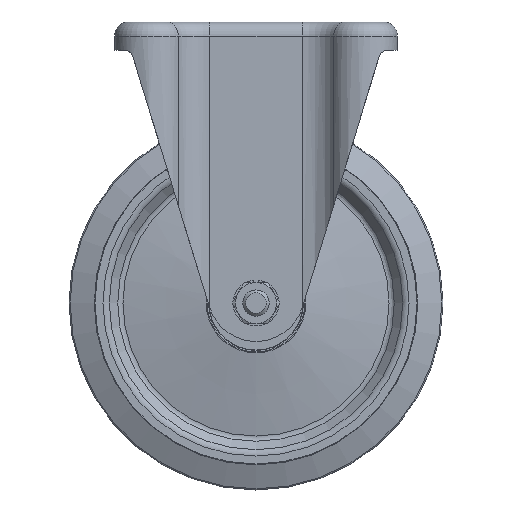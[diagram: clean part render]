
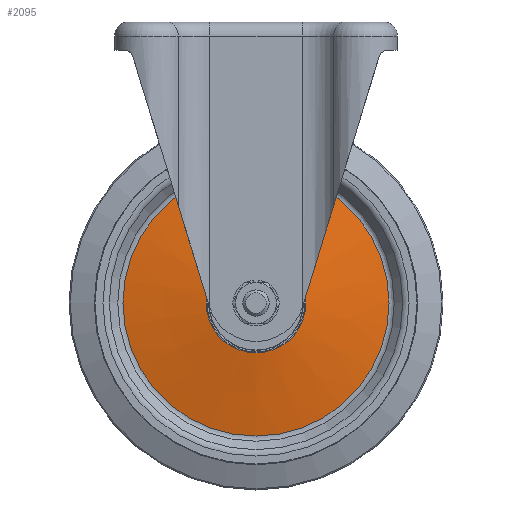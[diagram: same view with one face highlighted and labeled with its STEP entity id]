
A CAD part, left-side view. The second image highlights one B-rep face of the part: STEP entity #2095.
In plain terms, the highlighted conical face has half-angle 79.656 degrees and reference radius 48.81 mm.
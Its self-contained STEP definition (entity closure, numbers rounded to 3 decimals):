
#2061=CARTESIAN_POINT('',(978.887,0.,250.959));
#2062=VERTEX_POINT('',#2061);
#2063=CARTESIAN_POINT('',(978.887,0.,277.576));
#2064=DIRECTION('',(1.0,0.0,0.0));
#2065=DIRECTION('',(0.0,0.0,-1.0));
#2066=AXIS2_PLACEMENT_3D('',#2063,#2064,#2065);
#2067=CIRCLE('',#2066,26.617);
#2068=EDGE_CURVE('',#2062,#2062,#2067,.T.);
#2076=CARTESIAN_POINT('',(982.938,0.,277.576));
#2077=DIRECTION('',(1.0,0.0,0.0));
#2078=DIRECTION('',(0.0,0.0,-1.0));
#2079=AXIS2_PLACEMENT_3D('',#2076,#2077,#2078);
#2080=CONICAL_SURFACE('',#2079,48.81,79.656);
#2081=CARTESIAN_POINT('',(986.989,0.,206.573));
#2082=VERTEX_POINT('',#2081);
#2083=CARTESIAN_POINT('',(986.989,0.,277.576));
#2084=DIRECTION('',(1.0,0.0,0.0));
#2085=DIRECTION('',(0.0,0.0,-1.0));
#2086=AXIS2_PLACEMENT_3D('',#2083,#2084,#2085);
#2087=CIRCLE('',#2086,71.003);
#2088=EDGE_CURVE('',#2082,#2082,#2087,.T.);
#2089=ORIENTED_EDGE('',*,*,#2088,.F.);
#2090=EDGE_LOOP('',(#2089));
#2091=FACE_OUTER_BOUND('',#2090,.T.);
#2092=ORIENTED_EDGE('',*,*,#2068,.T.);
#2093=EDGE_LOOP('',(#2092));
#2094=FACE_BOUND('',#2093,.T.);
#2095=ADVANCED_FACE('',(#2091,#2094),#2080,.T.);
